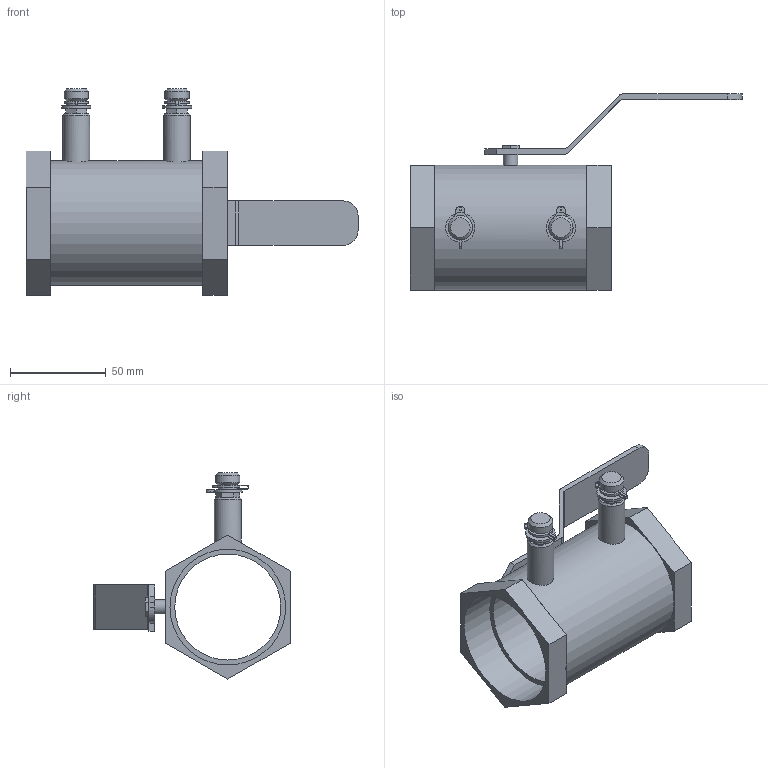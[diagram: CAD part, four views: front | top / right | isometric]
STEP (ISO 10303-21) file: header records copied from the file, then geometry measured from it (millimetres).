
FILE_DESCRIPTION(/* description */ ('VIC BALANCING VALVE SERIES 78BL (THD)','CAx-IF Rec.Pracs.---Representation and Presentation of Product Manufacturing Information (PMI)---4.0---2014-10-13'),/* implementation_level */ '2;1');
FILE_NAME(/* name */ 'C:\Users\kkamble\Desktop\New folder (12)\New folder\step\Victaulic-IPS-TA Balancing Ball Valve Series 78BL (THD)\Victaulic-IPS-TA Balancing Ball Valve Series 78BL (THD)_2 (50).stp',/* time_stamp */ '2020-10-13T18:40:09+05:00',/* author */ ('kkamble'),/* organization */ ('Victaulic'),/* preprocessor_version */ 'ST-DEVELOPER v17.2',/* originating_system */ 'Autodesk Inventor 2019',/* authorisation */ '');
FILE_SCHEMA (('AP242_MANAGED_MODEL_BASED_3D_ENGINEERING_MIM_LF { 1 0 10303 442 1 1 4 }'));
Length unit declared in the file: inch
Products named in the file (1): 78BL-02.0
Bounding box: 173.1 x 102.39 x 107.55 mm (x, y, z)
Volume: 108260.8 mm3; surface area: 55541.7 mm2
Topology: 3 solids, 3 shells, 163 faces, 431 edges, 275 vertices
Faces by surface type: plane 120, cylinder 37, cone 6
Full cylindrical faces by diameter (mm): 4.318 x1, 7.62 x1, 12.7 x2, 13.97 x2, 55.245 x1, 60.325 x2, 65.075 x1
Entity records: 5493 total; most frequent: CARTESIAN_POINT 993, DIRECTION 904, ORIENTED_EDGE 866, EDGE_CURVE 433, LINE 304, VECTOR 304, AXIS2_PLACEMENT_3D 300, VERTEX_POINT 277
